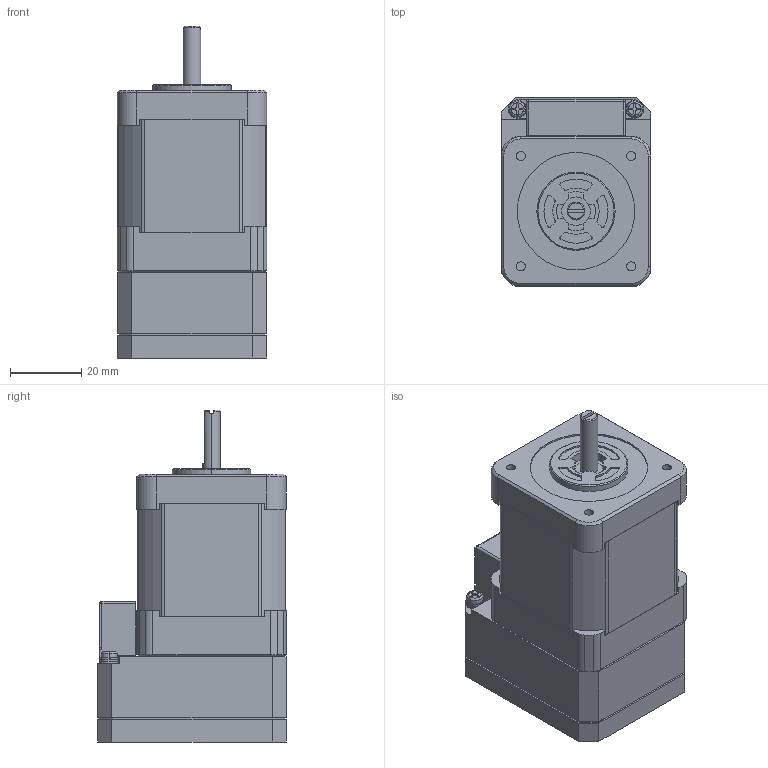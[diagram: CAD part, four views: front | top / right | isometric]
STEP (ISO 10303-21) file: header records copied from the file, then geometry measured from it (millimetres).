
FILE_DESCRIPTION (( 'STEP AP203' ), '1' );
FILE_NAME ('CM1-X-17L30C.STEP', '2012-02-06T14:53:55', ( 'render' ), ( '' ), 'SwSTEP 2.0', 'SolidWorks 2011', '' );
FILE_SCHEMA (( 'CONFIG_CONTROL_DESIGN' ));
Length unit declared in the file: millimetre
Products named in the file (1): CM1-X-17L30C
Bounding box: 42 x 53 x 93.3 mm (x, y, z)
Volume: 135299.1 mm3; surface area: 25176.1 mm2
Topology: 1 solids, 1 shells, 849 faces, 2385 edges, 1538 vertices
Faces by surface type: plane 601, cylinder 215, cone 29, bspline 4
Entity records: 27357 total; most frequent: CARTESIAN_POINT 4963, ORIENTED_EDGE 4754, DIRECTION 4538, EDGE_CURVE 2377, VECTOR 1880, LINE 1880, VERTEX_POINT 1538, AXIS2_PLACEMENT_3D 1329
